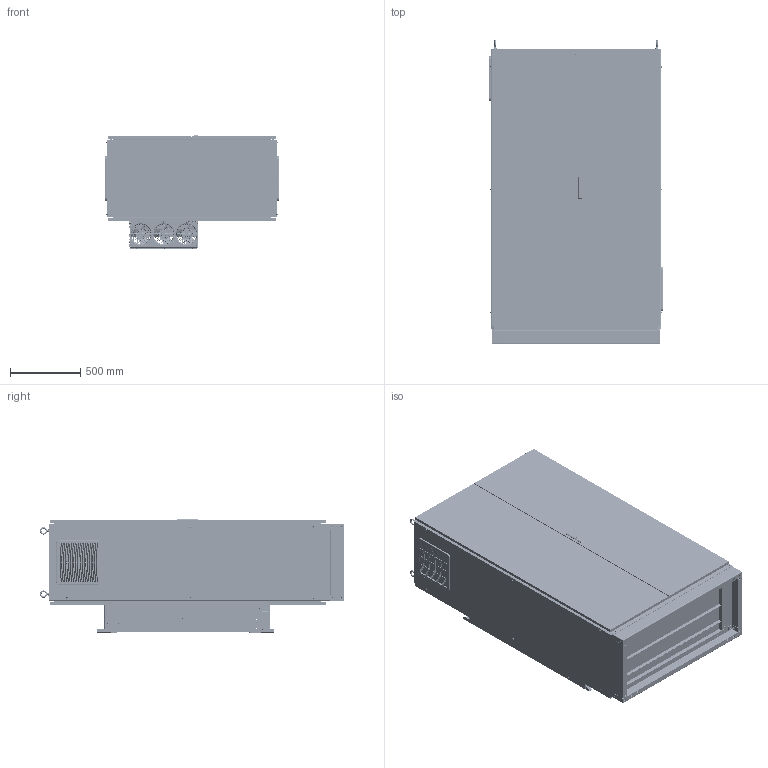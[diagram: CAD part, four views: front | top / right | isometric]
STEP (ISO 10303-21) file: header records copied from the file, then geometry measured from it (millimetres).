
FILE_DESCRIPTION (( 'STEP AP203' ), '1' );
FILE_NAME ('WENCL-N1-834824_GEA_Option_1.STEP', '2019-06-25T13:08:02', ( 'root' ), ( '' ), 'SwSTEP 2.0', 'SolidWorks 2018', '' );
FILE_SCHEMA (( 'CONFIG_CONTROL_DESIGN' ));
Products named in the file (15): 0395-1220-60-17; CFW11 Mec G; 0396-1201-60-17; 96439A580_18-8 SS_.25 IN DIA.; 3014T491_STEEL EYEBOLT WITH SHOULDER - FOR LIFTING_3014T491; 95185A340_ZINC-PLTD_10-24 in STL PRESS-FIT NUT FOR SHEET METAL_95185A340; 0396-7020-60-67; 90454A150_PRESS-FIT SNAP-TOP SUPPORTS_.25 in_90454A15; WEG LOGOS_ Label; 0396-7020-60-67_Cutout_Bottom; 3156-0291-23-01-00; WENCL-N1-834824_GEA_Option_1; 3156-0291-23-01-00_Without_Fan; 0396-0004-60-00; 0395-1220-60-17_Backpanel_Drive_Thru_Cut
Assembly tree (22 placements, depth 2):
  WENCL-N1-834824_GEA_Option_1
    0395-1220-60-17
    0396-1201-60-17
    3014T491_STEEL EYEBOLT WITH SHOULDER - FOR LIFTING_3014T491  x4
    0396-7020-60-67
    WEG LOGOS_ Label
    3156-0291-23-01-00
    3156-0291-23-01-00_Without_Fan
    0396-0004-60-00
    0395-1220-60-17_Backpanel_Drive_Thru_Cut
    CFW11 Mec G
    96439A580_18-8 SS_.25 IN DIA.  x3
    95185A340_ZINC-PLTD_10-24 in STL PRESS-FIT NUT FOR SHEET METAL_95185A340  x4
    90454A150_PRESS-FIT SNAP-TOP SUPPORTS_.25 in_90454A15
    0396-7020-60-67_Cutout_Bottom
Bounding box: 1237 x 2168.16 x 807.45 mm (x, y, z)
Volume: 45485486.7 mm3; surface area: 39629759.2 mm2
Topology: 341 solids, 343 shells, 27819 faces, 76370 edges, 49611 vertices
Faces by surface type: plane 15439, cylinder 6651, cone 2900, bspline 1407, torus 1174, sphere 248
Full cylindrical faces by diameter (mm): 4.665 x1, 5.385 x1, 6.35 x1, 8.636 x4
Entity records: 1004707 total; most frequent: CARTESIAN_POINT 311987, ORIENTED_EDGE 148578, DIRECTION 137107, EDGE_CURVE 74289, VERTEX_POINT 48361, AXIS2_PLACEMENT_3D 46676, LINE 43755, VECTOR 43755
